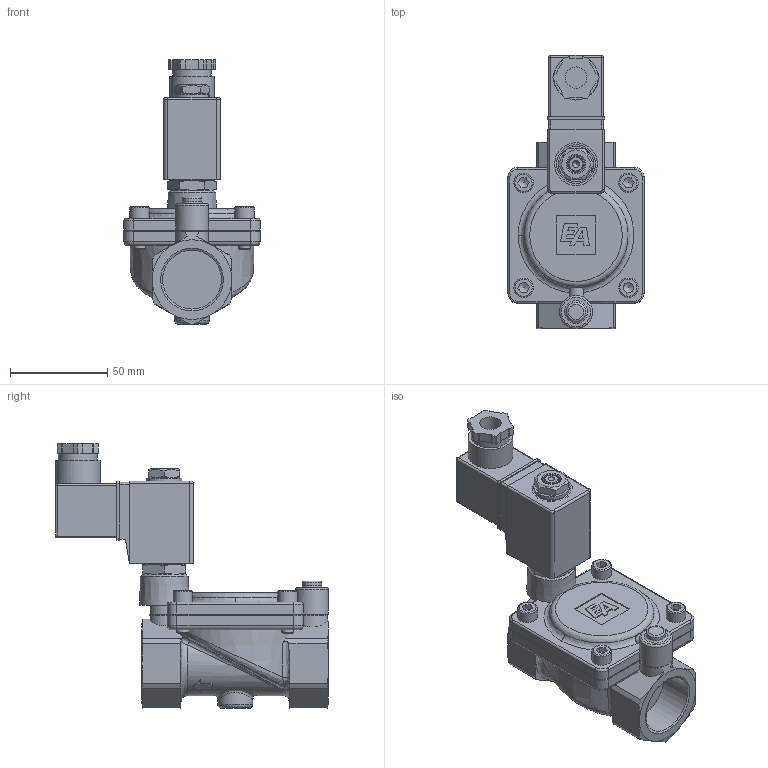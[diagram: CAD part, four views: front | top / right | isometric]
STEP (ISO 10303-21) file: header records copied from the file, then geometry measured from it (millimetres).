
FILE_DESCRIPTION((''),'2;1');
FILE_NAME('H:\Zeichnungen\STEP\MGMG2S12XX43025.stp','2009-10-09T09:00:11',('heidemann'),(''),'Autodesk Inventor 2010','Autodesk Inventor 2010','');
FILE_SCHEMA(('AUTOMOTIVE_DESIGN { 1 0 10303 214 1 1 1 1 }'));
Length unit declared in the file: millimetre
Products named in the file (10): MGMG2S12XX43025; GGG0025_20_0024; DEQ0700_; TA-N243-NC-30-2; DIN 912  (Regelgewinde) - ersetzt durch DIN EN ISO 4762 M6 x 16; SGXX43-S; DIN EN ISO 7045 H M3 x 30 - 4.8 - H; DIN 128 A10; DIN EN 28 675  (Feingewinde) M10 x 1; DIN 125-1  A Scheibe 41er Spule
Assembly tree (12 placements, depth 2):
  MGMG2S12XX43025
    GGG0025_20_0024
    DEQ0700_
    TA-N243-NC-30-2
    DIN 912  (Regelgewinde) - ersetzt durch DIN EN ISO 4762 M6 x 16  x4
    SGXX43-S
    DIN EN ISO 7045 H M3 x 30 - 4.8 - H
    DIN 128 A10
    DIN EN 28 675  (Feingewinde) M10 x 1
    DIN 125-1  A Scheibe 41er Spule
Bounding box: 70 x 140.5 x 136.15 mm (x, y, z)
Volume: 283595.9 mm3; surface area: 65495.5 mm2
Topology: 12 solids, 12 shells, 444 faces, 1072 edges, 674 vertices
Faces by surface type: plane 224, cylinder 94, cone 55, bspline 44, torus 22, sphere 5
Full cylindrical faces by diameter (mm): 2.729 x1, 3 x1, 6 x4, 6.5 x4, 7.3 x1, 7.8 x1, 9.73 x1, 10 x8, 11 x1, 13.4 x1, 14.4 x1, 14.75 x1, 17 x1, 17.75 x1, 18 x1, 20 x2, 21.8 x1, 22 x1, 23 x1
Entity records: 14016 total; most frequent: CARTESIAN_POINT 4848, ORIENTED_EDGE 1798, DIRECTION 1790, EDGE_CURVE 899, AXIS2_PLACEMENT_3D 681, VERTEX_POINT 604, EDGE_LOOP 513, VECTOR 428
